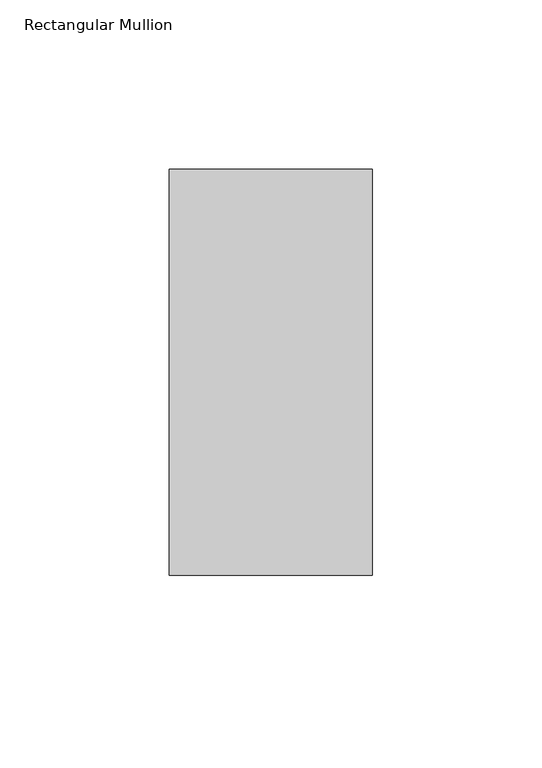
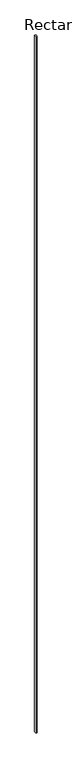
"""IFC4 building model written with IfcOpenShell, lengths in millimetres: member geometry, Rectangular Mullion : Terça."""

import ifcopenshell
import ifcopenshell.guid

model = None  # the IFC model being written
_history = None  # IfcOwnerHistory: only IFC2X3 demands one
_inside = {}  # id of a spatial element -> (the spatial element, [elements in it])
_under = {}  # id of a project, library or spatial element -> (it, [spatial elements below it])
_declared = {}  # id of a project -> (the project, [libraries it declares])
_typed = {}  # id of a type object -> (the type object, [elements of that type])
_made_of = {}  # id of a material, layer set ... -> (it, [elements and type objects made of it])


def new_model(schema):
    """Start an empty IFC model of exactly this schema.

    Asked for "IFC4X3", IfcOpenShell would pick the latest addendum, in which some entities
    have other attributes; the version numbers below select the first issue.
    IFC2X3 requires an IfcOwnerHistory on every rooted entity: one is made here for all.
    """
    global model, _history
    if schema == "IFC4X3":
        model = ifcopenshell.file(schema_version=(4, 3, 0, 0))
    else:
        model = ifcopenshell.file(schema=schema)
    _inside.clear()
    _under.clear()
    _declared.clear()
    _typed.clear()
    _made_of.clear()
    _history = None
    if model.schema == "IFC2X3":
        org = make("IfcOrganization", Name="unknown")
        user = make(
            "IfcPersonAndOrganization",
            ThePerson=make("IfcPerson", FamilyName="unknown"),
            TheOrganization=org,
        )
        app = make(
            "IfcApplication",
            ApplicationDeveloper=org,
            Version="unknown",
            ApplicationFullName="unknown",
            ApplicationIdentifier="unknown",
        )
        _history = make(
            "IfcOwnerHistory",
            OwningUser=user,
            OwningApplication=app,
            ChangeAction="ADDED",
            CreationDate=0,
        )
    return model


def make(cls, **values):
    """One entity of the class cls with the attributes given. An attribute that is None is left unset."""
    return model.create_entity(
        cls, **{name: value for name, value in values.items() if value is not None}
    )


def rooted(cls, **values):
    """An entity with a GlobalId (a new one), such as an element, a storey or a relation."""
    return make(cls, GlobalId=ifcopenshell.guid.new(), OwnerHistory=_history, **values)


def si_unit(unit_type, name, prefix=None):
    """IfcSIUnit, for example si_unit("LENGTHUNIT", "METRE", prefix="MILLI")."""
    return make("IfcSIUnit", UnitType=unit_type, Prefix=prefix, Name=name)


def assignment(units):
    """IfcUnitAssignment: the units of a project."""
    return None if units is None else make("IfcUnitAssignment", Units=units)


def point(xyz):
    """IfcCartesianPoint."""
    return None if xyz is None else make("IfcCartesianPoint", Coordinates=xyz)


def direction(xyz):
    """IfcDirection."""
    return None if xyz is None else make("IfcDirection", DirectionRatios=xyz)


def frame(location, z_axis=None, x_axis=None):
    """IfcAxis2Placement3D, a coordinate frame: its origin and axes. An axis left out is left unset."""
    return make(
        "IfcAxis2Placement3D",
        Location=point(location),
        Axis=direction(z_axis),
        RefDirection=direction(x_axis),
    )


def origin():
    """The frame at (0, 0, 0) with its axes left unset."""
    return frame((0.0, 0.0, 0.0))


def place(relative_to, where):
    """IfcLocalPlacement: puts the frame where relative to a parent placement (None: the world)."""
    return make(
        "IfcLocalPlacement", PlacementRelTo=relative_to, RelativePlacement=where
    )


def context(
    kind, dimensions, precision=None, world=None, true_north=None, identifier=None
):
    """IfcGeometricRepresentationContext, for example the 3D "Model" context."""
    return make(
        "IfcGeometricRepresentationContext",
        ContextIdentifier=identifier,
        ContextType=kind,
        CoordinateSpaceDimension=dimensions,
        Precision=precision,
        WorldCoordinateSystem=world,
        TrueNorth=true_north,
    )


def project(units=None, contexts=None):
    """IfcProject with its units and contexts."""
    return rooted(
        "IfcProject",
        Name="project",
        RepresentationContexts=contexts,
        UnitsInContext=assignment(units),
    )


def spatial(cls, under=None, at=None, **own):
    """A site, building, storey or space (cls), placed at a placement, below another one or the project."""
    s = rooted(cls, ObjectPlacement=at, **own)
    if under is not None:
        _under.setdefault(under.id(), (under, []))[1].append(s)
    return s


def polyline(points):
    """IfcPolyline through the points."""
    return make("IfcPolyline", Points=[point(p) for p in points])


def outline(outer, holes=None, kind="AREA"):
    """IfcArbitraryClosedProfileDef: a profile drawn as a closed curve; with holes, ...WithVoids."""
    if holes is None:
        return make("IfcArbitraryClosedProfileDef", ProfileType=kind, OuterCurve=outer)
    return make(
        "IfcArbitraryProfileDefWithVoids",
        ProfileType=kind,
        OuterCurve=outer,
        InnerCurves=holes,
    )


def extrude(swept, where, along, depth):
    """IfcExtrudedAreaSolid: the profile swept, set in the frame where, extruded along a direction by depth."""
    return make(
        "IfcExtrudedAreaSolid",
        SweptArea=swept,
        Position=where,
        ExtrudedDirection=direction(along),
        Depth=depth,
    )


def shape(context_of_items, identifier, shape_type, items):
    """IfcShapeRepresentation: the items that make up one representation, for example the "Body"."""
    return make(
        "IfcShapeRepresentation",
        ContextOfItems=context_of_items,
        RepresentationIdentifier=identifier,
        RepresentationType=shape_type,
        Items=items,
    )


def source(mapping_origin, context_of_items, identifier, shape_type, items):
    """IfcRepresentationMap: a shape defined once, which mapped items show again and again."""
    return make(
        "IfcRepresentationMap",
        MappingOrigin=mapping_origin,
        MappedRepresentation=shape(context_of_items, identifier, shape_type, items),
    )


def transform(
    local_origin,
    x_axis=None,
    y_axis=None,
    z_axis=None,
    scale=None,
    scale2=None,
    scale3=None,
    uniform=True,
):
    """IfcCartesianTransformationOperator3D, or its non-uniform kind. x_axis, y_axis, z_axis: its Axis1, 2, 3."""
    if uniform:
        return make(
            "IfcCartesianTransformationOperator3D",
            Axis1=direction(x_axis),
            Axis2=direction(y_axis),
            LocalOrigin=point(local_origin),
            Scale=scale,
            Axis3=direction(z_axis),
        )
    return make(
        "IfcCartesianTransformationOperator3DnonUniform",
        Axis1=direction(x_axis),
        Axis2=direction(y_axis),
        LocalOrigin=point(local_origin),
        Scale=scale,
        Axis3=direction(z_axis),
        Scale2=scale2,
        Scale3=scale3,
    )


def mapped(mapping_source, mapping_target):
    """IfcMappedItem: shows the shape of a source again, moved by a transform."""
    return make(
        "IfcMappedItem", MappingSource=mapping_source, MappingTarget=mapping_target
    )


def made_of(thing, what):
    """Note that an element or type object is made of a material, layer set ...; save() writes the relation."""
    if what is not None:
        _made_of.setdefault(what.id(), (what, []))[1].append(thing)
    return thing


def element(
    cls,
    number,
    at=None,
    inside=None,
    cuts=None,
    type_object=None,
    material=None,
    context=None,
    identifier="Body",
    shape_type=None,
    held_by="IfcProductDefinitionShape",
    body=None,
    shapes=None,
    **own,
):
    """One element of the class cls, such as IfcWall. Its Tag is "e" and its number.

    at: its placement. inside: the storey or other place that contains it. cuts: it is an
    opening in that element (IfcRelVoidsElement). A single representation is given by context,
    identifier, shape_type and body (its items); several are given by shapes. held_by: the class
    of the entity that holds the representations. save() writes the other relations.
    """
    e = rooted(cls, Tag="e%d" % number, ObjectPlacement=at, **own)
    if body is not None:
        shapes = [shape(context, identifier, shape_type, body)]
    if shapes is not None:
        e.Representation = make(held_by, Representations=shapes)
    if inside is not None:
        _inside.setdefault(inside.id(), (inside, []))[1].append(e)
    if cuts is not None:
        rooted(
            "IfcRelVoidsElement", RelatingBuildingElement=cuts, RelatedOpeningElement=e
        )
    if type_object is not None:
        _typed.setdefault(type_object.id(), (type_object, []))[1].append(e)
    return made_of(e, material)


def aggregate(whole, parts):
    """IfcRelAggregates: a whole, such as a stair, and the parts it consists of."""
    return rooted("IfcRelAggregates", RelatingObject=whole, RelatedObjects=parts)


def save(model, path):
    """Write the relations noted so far, then the file.

    IfcRelAggregates (storeys below a building ...), IfcRelContainedInSpatialStructure (elements
    in a storey), IfcRelDefinesByType, IfcRelAssociatesMaterial and IfcRelDeclares: one each for
    every whole, place, type object, material and project.
    """
    for whole, parts in _under.values():
        aggregate(whole, parts)
    for where, things in _inside.values():
        rooted(
            "IfcRelContainedInSpatialStructure",
            RelatedElements=things,
            RelatingStructure=where,
        )
    for kind, things in _typed.values():
        rooted("IfcRelDefinesByType", RelatedObjects=things, RelatingType=kind)
    for what, things in _made_of.values():
        rooted("IfcRelAssociatesMaterial", RelatedObjects=things, RelatingMaterial=what)
    for by, libraries in _declared.values():
        rooted("IfcRelDeclares", RelatingContext=by, RelatedDefinitions=libraries)
    model.write(path)


def rectangular_mullion_65d508cb(model_context):
    return source(origin(), model_context, "Body", "SweptSolid", [
        extrude(outline(polyline([(-60.0, -120.0), (-60.0, 0.0), (0.0, 0.0), (0.0, -120.0), (-60.0, -120.0)])), frame((0.0, 0.0, -39475.0011106), z_axis=(0.0, 0.0, 1.0), x_axis=(1.0, 0.0, 0.0)), (0.0, 0.0, 1.0), 39475.0011106),
    ])


if __name__ == "__main__":
    model = new_model("IFC4")
    model_context = context("Model", 3, world=origin())
    ifc_project = project(units=[si_unit("LENGTHUNIT", "METRE", prefix="MILLI")], contexts=[model_context])
    site = spatial("IfcSite", under=ifc_project)
    building = spatial("IfcBuilding", under=site)
    placement = place(None, origin())
    rectangular_mullion_shape = rectangular_mullion_65d508cb(model_context)
    element("IfcMember", 1, ObjectType="Rectangular Mullion : Terça", at=placement, inside=building, context=model_context, shape_type="MappedRepresentation", body=[
        mapped(rectangular_mullion_shape, transform((0.0, 0.0, 0.0), x_axis=(1.0, 0.0, 0.0), y_axis=(0.0, 1.0, 0.0), z_axis=(0.0, 0.0, 1.0))),
    ])
    save(model, "model.ifc")
